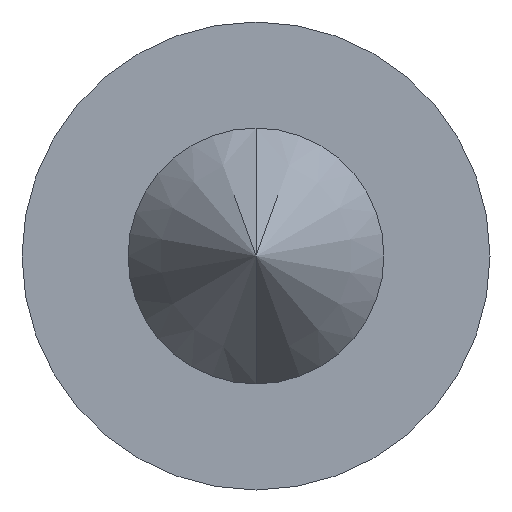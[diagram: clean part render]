
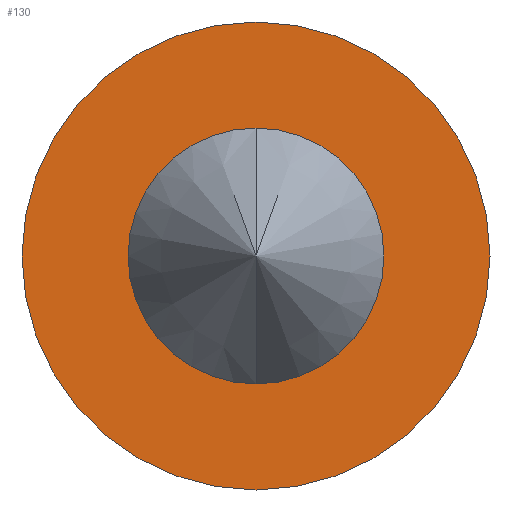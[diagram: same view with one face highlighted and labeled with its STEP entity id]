
A CAD part, front view. The second image highlights one B-rep face of the part: STEP entity #130.
In plain terms, the highlighted planar face has unit normal (0, -1, 0).
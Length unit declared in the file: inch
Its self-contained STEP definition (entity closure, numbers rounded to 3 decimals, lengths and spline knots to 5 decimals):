
#8 = CARTESIAN_POINT ( 'NONE',  ( 0., -0.24273, 0. ) ) ;
#9 = CARTESIAN_POINT ( 'NONE',  ( 0., -0.24273, -0.108 ) ) ;
#21 = EDGE_LOOP ( 'NONE', ( #315, #74 ) ) ;
#26 = AXIS2_PLACEMENT_3D ( 'NONE', #8, #132, #255 ) ;
#27 = ORIENTED_EDGE ( 'NONE', *, *, #95, .T. ) ;
#48 = CIRCLE ( 'NONE', #371, 0.108 ) ;
#67 = DIRECTION ( 'NONE',  ( 0., -1., 0. ) ) ;
#74 = ORIENTED_EDGE ( 'NONE', *, *, #108, .F. ) ;
#85 = VERTEX_POINT ( 'NONE', #131 ) ;
#87 = EDGE_CURVE ( 'NONE', #85, #288, #48, .T. ) ;
#95 = EDGE_CURVE ( 'NONE', #322, #383, #244, .T. ) ;
#108 = EDGE_CURVE ( 'NONE', #288, #85, #302, .T. ) ;
#130 = ADVANCED_FACE ( 'NONE', ( #313, #165 ), #304, .T. ) ;
#131 = CARTESIAN_POINT ( 'NONE',  ( 0., -0.24273, -0.108 ) ) ;
#132 = DIRECTION ( 'NONE',  ( 0., -1., 0. ) ) ;
#153 = CARTESIAN_POINT ( 'NONE',  ( 0., -0.24273, 0.108 ) ) ;
#164 = EDGE_CURVE ( 'NONE', #383, #322, #342, .T. ) ;
#165 = FACE_BOUND ( 'NONE', #21, .T. ) ;
#168 = DIRECTION ( 'NONE',  ( 0., 0., -1. ) ) ;
#171 = ORIENTED_EDGE ( 'NONE', *, *, #164, .T. ) ;
#172 = DIRECTION ( 'NONE',  ( 0., 0., -1. ) ) ;
#221 = DIRECTION ( 'NONE',  ( 0., 0., -1. ) ) ;
#226 = DIRECTION ( 'NONE',  ( 0., -1., 0. ) ) ;
#244 = CIRCLE ( 'NONE', #380, 0.1975 ) ;
#255 = DIRECTION ( 'NONE',  ( 0., 0., -1. ) ) ;
#262 = DIRECTION ( 'NONE',  ( 0., -1., 0. ) ) ;
#280 = DIRECTION ( 'NONE',  ( 0., 0., -1. ) ) ;
#288 = VERTEX_POINT ( 'NONE', #153 ) ;
#302 = CIRCLE ( 'NONE', #26, 0.108 ) ;
#304 = PLANE ( 'NONE',  #317 ) ;
#311 = DIRECTION ( 'NONE',  ( 0., -1., 0. ) ) ;
#313 = FACE_OUTER_BOUND ( 'NONE', #394, .T. ) ;
#315 = ORIENTED_EDGE ( 'NONE', *, *, #87, .F. ) ;
#317 = AXIS2_PLACEMENT_3D ( 'NONE', #9, #226, #168 ) ;
#322 = VERTEX_POINT ( 'NONE', #331 ) ;
#323 = AXIS2_PLACEMENT_3D ( 'NONE', #375, #262, #172 ) ;
#331 = CARTESIAN_POINT ( 'NONE',  ( 0., -0.24273, -0.1975 ) ) ;
#341 = CARTESIAN_POINT ( 'NONE',  ( 0., -0.24273, 0. ) ) ;
#342 = CIRCLE ( 'NONE', #323, 0.1975 ) ;
#343 = CARTESIAN_POINT ( 'NONE',  ( 0., -0.24273, 0. ) ) ;
#371 = AXIS2_PLACEMENT_3D ( 'NONE', #343, #67, #221 ) ;
#375 = CARTESIAN_POINT ( 'NONE',  ( 0., -0.24273, 0. ) ) ;
#380 = AXIS2_PLACEMENT_3D ( 'NONE', #341, #311, #280 ) ;
#383 = VERTEX_POINT ( 'NONE', #388 ) ;
#388 = CARTESIAN_POINT ( 'NONE',  ( 0., -0.24273, 0.1975 ) ) ;
#394 = EDGE_LOOP ( 'NONE', ( #27, #171 ) ) ;
